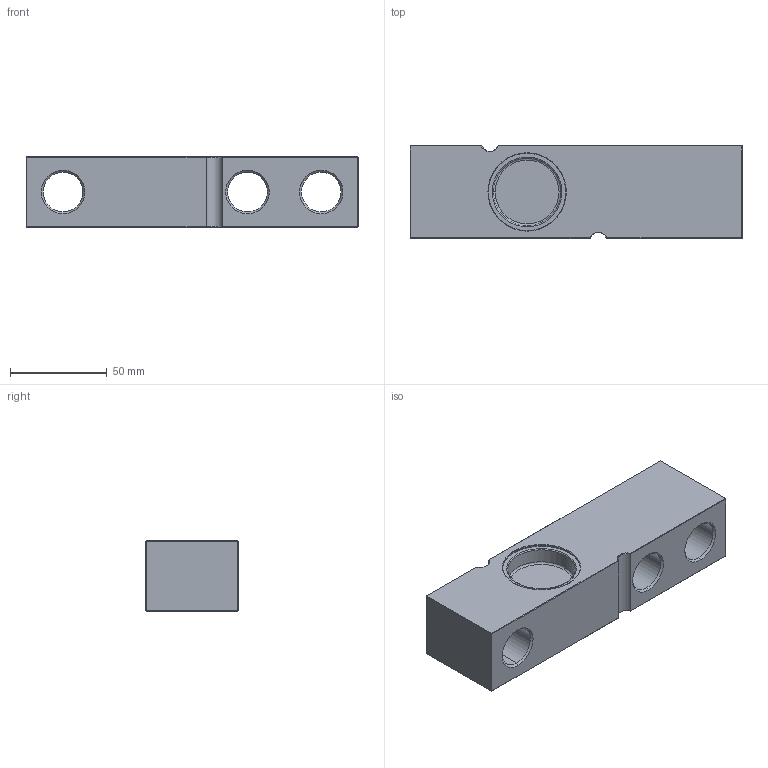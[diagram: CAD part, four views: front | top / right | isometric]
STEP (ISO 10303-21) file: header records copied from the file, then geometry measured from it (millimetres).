
FILE_DESCRIPTION (( 'STEP AP214' ), '1' );
FILE_NAME ('3510-3000, 5000kg.STEP', '2024-01-29T10:30:33', ( '' ), ( '' ), 'SwSTEP 2.0', 'SolidWorks 2019', '' );
FILE_SCHEMA (( 'AUTOMOTIVE_DESIGN' ));
Length unit declared in the file: millimetre
Products named in the file (2): 3510-3000, 5000kg
Bounding box: 171.5 x 48 x 36.5 mm (x, y, z)
Volume: 231547.5 mm3; surface area: 41577.6 mm2
Topology: 1 solids, 1 shells, 80 faces, 174 edges, 100 vertices
Faces by surface type: plane 36, cone 20, cylinder 16, torus 8
Entity records: 2351 total; most frequent: DIRECTION 406, CARTESIAN_POINT 380, ORIENTED_EDGE 348, EDGE_CURVE 174, AXIS2_PLACEMENT_3D 158, VERTEX_POINT 100, VECTOR 90, LINE 90
